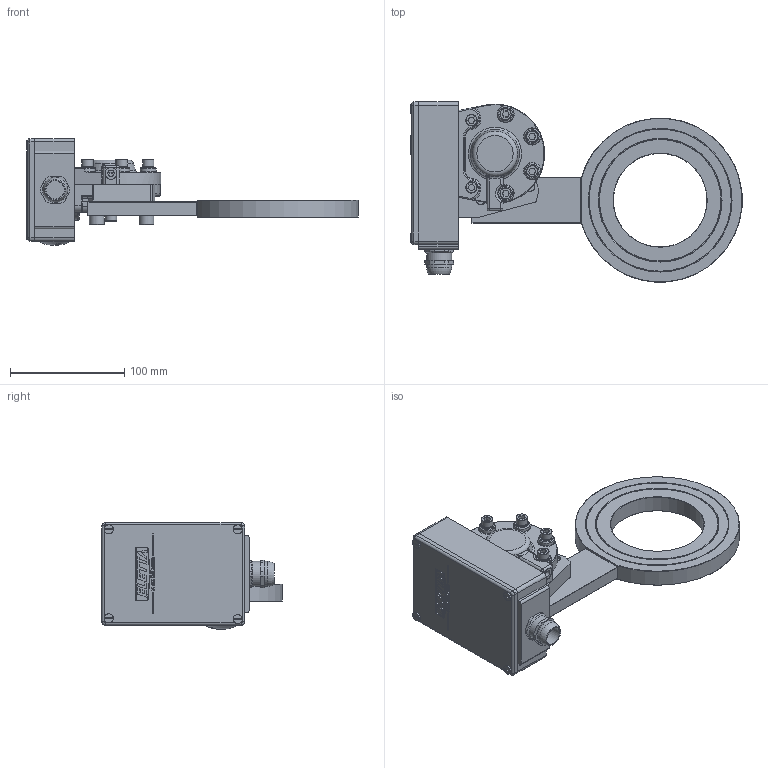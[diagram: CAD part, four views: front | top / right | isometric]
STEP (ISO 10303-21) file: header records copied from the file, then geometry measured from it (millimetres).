
FILE_DESCRIPTION(/* description */ ('Alibre Inc.'),/* implementation_level */ '2;1');
FILE_NAME(/* name */ 'export0',/* time_stamp */ '2012-10-19T13:16:36+02:00',/* author */ (''),/* organization */ (''),/* preprocessor_version */ 'ST-DEVELOPER v14',/* originating_system */ 'Alibre',/* authorisation */ '');
FILE_SCHEMA (('CONFIG_CONTROL_DESIGN'));
Length unit declared in the file: centimetre
Products named in the file (12): ID_1; ID_2; ID_3; ID_4; ID_5; ID_6; ID_7; ID_8; ID_9
Bounding box: 290.98 x 157.9 x 93.66 mm (x, y, z)
Volume: 475742.3 mm3; surface area: 186020.1 mm2
Topology: 21 solids, 21 shells, 1085 faces, 2568 edges, 1593 vertices
Faces by surface type: plane 538, cylinder 231, bspline 162, cone 76, torus 70, sphere 8
Full cylindrical faces by diameter (mm): 3.9 x2, 5 x22, 5.5 x1, 5.541 x2, 6 x14, 6.038 x2, 6.5 x6, 8 x9, 8.5 x2, 9.6 x6, 10 x11, 10.5 x1, 12 x3, 13 x2, 14 x3, 16 x1, 17.966 x1, 19.5 x1, 22 x2, 22.5 x4, 29 x1, 31 x1, 82 x1, 107 x2, 108 x2, 125 x2, 126 x2
Entity records: 34338 total; most frequent: CARTESIAN_POINT 14030, ORIENTED_EDGE 3988, DIRECTION 3168, EDGE_CURVE 1994, VERTEX_POINT 1333, AXIS2_PLACEMENT_3D 1279, EDGE_LOOP 1159, FACE_BOUND 1159
